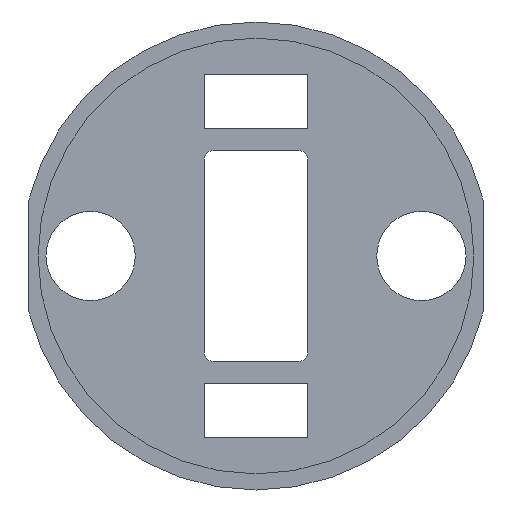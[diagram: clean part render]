
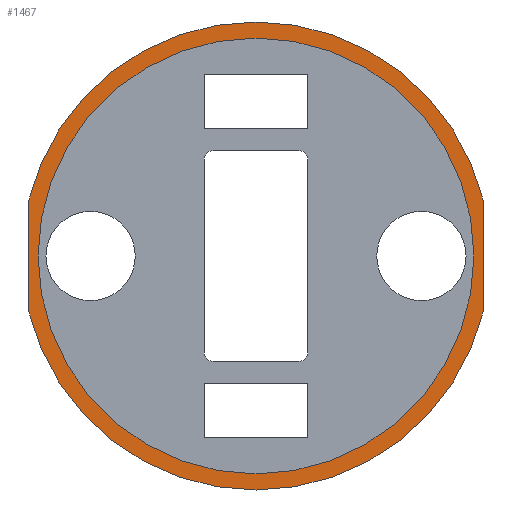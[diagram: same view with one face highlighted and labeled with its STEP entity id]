
A CAD part, front view. The second image highlights one B-rep face of the part: STEP entity #1467.
In plain terms, the highlighted planar face has unit normal (0, -1, 0).
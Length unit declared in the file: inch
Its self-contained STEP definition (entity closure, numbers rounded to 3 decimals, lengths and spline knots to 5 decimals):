
#1 = VERTEX_POINT ( 'NONE', #122 ) ;
#38 = EDGE_CURVE ( 'NONE', #1303, #408, #252, .T. ) ;
#63 = ORIENTED_EDGE ( 'NONE', *, *, #38, .T. ) ;
#75 = PLANE ( 'NONE',  #582 ) ;
#85 = CARTESIAN_POINT ( 'NONE',  ( 0.636, 0.07, 0. ) ) ;
#88 = CARTESIAN_POINT ( 'NONE',  ( -0.636, 0.07, -0.15662 ) ) ;
#103 = DIRECTION ( 'NONE',  ( 0., 0., 1. ) ) ;
#122 = CARTESIAN_POINT ( 'NONE',  ( 0.636, 0.07, -0.15662 ) ) ;
#142 = EDGE_CURVE ( 'NONE', #258, #1498, #1609, .T. ) ;
#152 = DIRECTION ( 'NONE',  ( 0., 0., -1. ) ) ;
#162 = CARTESIAN_POINT ( 'NONE',  ( 0., 0.07, -0.61 ) ) ;
#195 = VECTOR ( 'NONE', #612, 39.37008 ) ;
#252 = CIRCLE ( 'NONE', #1003, 0.61 ) ;
#258 = VERTEX_POINT ( 'NONE', #1584 ) ;
#260 = CIRCLE ( 'NONE', #755, 0.655 ) ;
#281 = CIRCLE ( 'NONE', #1684, 0.655 ) ;
#306 = DIRECTION ( 'NONE',  ( 0., 0., 1. ) ) ;
#375 = ORIENTED_EDGE ( 'NONE', *, *, #1011, .F. ) ;
#408 = VERTEX_POINT ( 'NONE', #162 ) ;
#499 = AXIS2_PLACEMENT_3D ( 'NONE', #1396, #995, #1657 ) ;
#557 = EDGE_CURVE ( 'NONE', #1432, #1, #1256, .T. ) ;
#568 = DIRECTION ( 'NONE',  ( 0., 0., 1. ) ) ;
#582 = AXIS2_PLACEMENT_3D ( 'NONE', #602, #614, #750 ) ;
#602 = CARTESIAN_POINT ( 'NONE',  ( 0., 0.07, 0. ) ) ;
#612 = DIRECTION ( 'NONE',  ( 0., 0., -1. ) ) ;
#614 = DIRECTION ( 'NONE',  ( 0., 1., 0. ) ) ;
#677 = CIRCLE ( 'NONE', #1067, 0.655 ) ;
#701 = DIRECTION ( 'NONE',  ( 0., 1., 0. ) ) ;
#710 = EDGE_CURVE ( 'NONE', #408, #1303, #1252, .T. ) ;
#750 = DIRECTION ( 'NONE',  ( 0., 0., 1. ) ) ;
#755 = AXIS2_PLACEMENT_3D ( 'NONE', #1501, #701, #568 ) ;
#823 = DIRECTION ( 'NONE',  ( 0., 1., 0. ) ) ;
#893 = ORIENTED_EDGE ( 'NONE', *, *, #1007, .F. ) ;
#896 = DIRECTION ( 'NONE',  ( 0., 0., 1. ) ) ;
#995 = DIRECTION ( 'NONE',  ( 0., 1., 0. ) ) ;
#998 = CARTESIAN_POINT ( 'NONE',  ( 0., 0.07, 0.61 ) ) ;
#1003 = AXIS2_PLACEMENT_3D ( 'NONE', #1065, #1046, #103 ) ;
#1006 = CARTESIAN_POINT ( 'NONE',  ( 0.636, 0.07, 0.15662 ) ) ;
#1007 = EDGE_CURVE ( 'NONE', #258, #1432, #260, .T. ) ;
#1011 = EDGE_CURVE ( 'NONE', #1055, #1498, #677, .T. ) ;
#1033 = CARTESIAN_POINT ( 'NONE',  ( 0., 0.07, 0. ) ) ;
#1046 = DIRECTION ( 'NONE',  ( 0., 1., 0. ) ) ;
#1055 = VERTEX_POINT ( 'NONE', #1487 ) ;
#1065 = CARTESIAN_POINT ( 'NONE',  ( 0., 0.07, 0. ) ) ;
#1067 = AXIS2_PLACEMENT_3D ( 'NONE', #1097, #823, #306 ) ;
#1097 = CARTESIAN_POINT ( 'NONE',  ( 0., 0.07, 0. ) ) ;
#1172 = EDGE_LOOP ( 'NONE', ( #1456, #63 ) ) ;
#1193 = ORIENTED_EDGE ( 'NONE', *, *, #557, .F. ) ;
#1252 = CIRCLE ( 'NONE', #499, 0.61 ) ;
#1256 = LINE ( 'NONE', #85, #195 ) ;
#1265 = FACE_BOUND ( 'NONE', #1172, .T. ) ;
#1271 = DIRECTION ( 'NONE',  ( 0., 1., 0. ) ) ;
#1287 = EDGE_LOOP ( 'NONE', ( #1193, #893, #1693, #375, #1323 ) ) ;
#1303 = VERTEX_POINT ( 'NONE', #998 ) ;
#1323 = ORIENTED_EDGE ( 'NONE', *, *, #1506, .F. ) ;
#1332 = CARTESIAN_POINT ( 'NONE',  ( -0.636, 0.07, 0. ) ) ;
#1396 = CARTESIAN_POINT ( 'NONE',  ( 0., 0.07, 0. ) ) ;
#1404 = FACE_OUTER_BOUND ( 'NONE', #1287, .T. ) ;
#1432 = VERTEX_POINT ( 'NONE', #1006 ) ;
#1456 = ORIENTED_EDGE ( 'NONE', *, *, #710, .T. ) ;
#1467 = ADVANCED_FACE ( 'NONE', ( #1265, #1404 ), #75, .F. ) ;
#1487 = CARTESIAN_POINT ( 'NONE',  ( 0., 0.07, -0.655 ) ) ;
#1498 = VERTEX_POINT ( 'NONE', #88 ) ;
#1501 = CARTESIAN_POINT ( 'NONE',  ( 0., 0.07, 0. ) ) ;
#1506 = EDGE_CURVE ( 'NONE', #1, #1055, #281, .T. ) ;
#1584 = CARTESIAN_POINT ( 'NONE',  ( -0.636, 0.07, 0.15662 ) ) ;
#1608 = VECTOR ( 'NONE', #152, 39.37008 ) ;
#1609 = LINE ( 'NONE', #1332, #1608 ) ;
#1657 = DIRECTION ( 'NONE',  ( 0., 0., 1. ) ) ;
#1684 = AXIS2_PLACEMENT_3D ( 'NONE', #1033, #1271, #896 ) ;
#1693 = ORIENTED_EDGE ( 'NONE', *, *, #142, .T. ) ;
